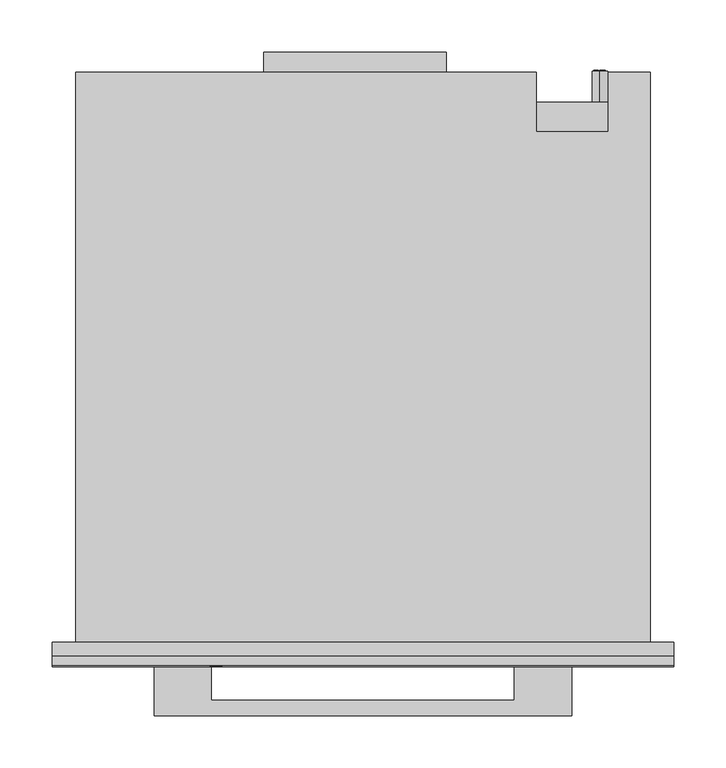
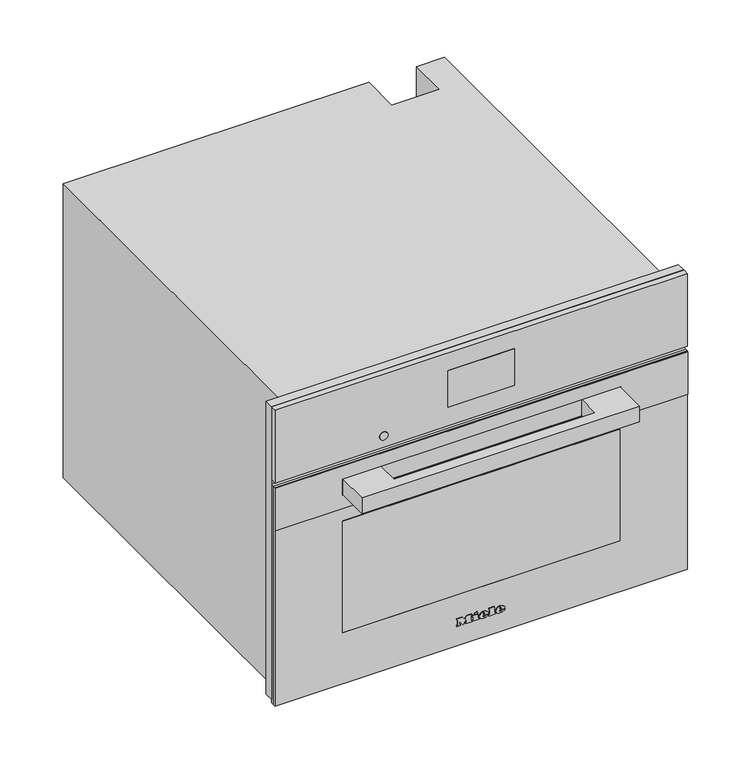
"""IFC4 building model written with IfcOpenShell, lengths in millimetres: proxy geometry, 11876660_USA_DGC7640_EDST-CLST : 23764042_USA_11876660_DGC7640_EDST-CLST."""

from ifc_helpers import new_model, si_unit, point, frame, frame_2d, origin, place, context, project, spatial, polyline, circle_curve, ellipse_curve, trimmed, segment, composite_curve, outline, extrude, faceted_brep, source, transform, mapped, element, save
from ifc_brep_helpers import plane_surface, cylinder_surface, revolved_surface, extruded_surface, advanced_brep


def specialty_equipment_7466eaa1(model_context):
    return source(origin(), model_context, "Body", "SolidModel", [
        extrude(outline(polyline([(455.0, 297.5), (455.0, -297.5), (9.0, -297.5), (9.0, 297.5), (455.0, 297.5)]), holes=[polyline([(344.0, -272.5), (344.0, 272.5), (27.0, 272.5), (27.0, -272.5), (344.0, -272.5)])]), frame((0.0, -13.0, 0.0), z_axis=(0.0, 1.0, 0.0), x_axis=(0.0, 0.0, 1.0)), (0.0, 0.0, 1.0), 13.0),
        extrude(outline(polyline([(-95.0, 565.0), (80.0, 565.0), (80.0, 546.0), (-95.0, 546.0), (-95.0, 565.0)])), frame((0.0, 0.0, 260.0), z_axis=(0.0, 0.0, 1.0), x_axis=(1.0, 0.0, 0.0)), (0.0, 0.0, 1.0), 1.0),
        advanced_brep(
        [(227.0, 547.0, 255.5), (227.0, 547.0, 240.5), (221.4098301, 547.0, 243.0), (225.5, 547.0, 243.0), (225.5, 547.0, 253.0), (224.4955303, 547.0, 253.0), (224.4955303, 547.0, 244.0), (221.0315043, 547.0, 244.0), (221.0315043, 547.0, 243.4582978), (232.0, 547.0, 243.0), (232.0, 547.0, 253.0), (227.0, 547.0, 253.0), (227.0, 547.0, 252.0), (231.0, 547.0, 252.0), (231.0, 547.0, 248.5), (228.0, 547.0, 248.5), (228.0, 547.0, 247.5), (231.0, 547.0, 247.5), (231.0, 547.0, 244.0), (227.0, 547.0, 244.0), (227.0, 547.0, 243.0), (227.0, 517.0, 240.5), (227.0, 517.0, 255.5), (232.0, 548.0, 253.0), (232.0, 548.0, 243.0), (227.0, 548.0, 243.0), (227.0, 548.0, 244.0), (231.0, 548.0, 244.0), (231.0, 548.0, 247.5), (228.0, 548.0, 247.5), (228.0, 548.0, 248.5), (231.0, 548.0, 248.5), (231.0, 548.0, 252.0), (227.0, 548.0, 252.0), (227.0, 548.0, 253.0), (225.5, 548.0, 243.0), (221.0315043, 548.0, 243.0), (221.0315043, 548.0, 244.0), (224.4955303, 548.0, 244.0), (224.4955303, 548.0, 253.0), (225.5, 548.0, 253.0), (221.0315043, 547.0, 243.0)],
        [
            (0, 1, circle_curve(frame((227.0, 547.0, 248.0), z_axis=(0.0, 1.0, 0.0), x_axis=(0.0, 0.0, 1.0)), 7.5)),
            (1, 2, circle_curve(frame((227.0, 547.0, 248.0), z_axis=(0.0, 1.0, 0.0), x_axis=(0.0, 0.0, 1.0)), 7.5)),
            (2, 3),
            (3, 4),
            (4, 5),
            (5, 6),
            (6, 7),
            (7, 8),
            (8, 0, circle_curve(frame((227.0, 547.0, 248.0), z_axis=(0.0, 1.0, 0.0), x_axis=(0.0, 0.0, 1.0)), 7.5)),
            (9, 10),
            (10, 11),
            (11, 12),
            (12, 13),
            (13, 14),
            (14, 15),
            (15, 16),
            (16, 17),
            (17, 18),
            (18, 19),
            (19, 20),
            (20, 9),
            (21, 22, circle_curve(frame((227.0, 517.0, 248.0), z_axis=(0.0, -1.0, 0.0), x_axis=(0.0, 0.0, 1.0)), 7.5)),
            (22, 21, circle_curve(frame((227.0, 517.0, 248.0), z_axis=(0.0, -1.0, 0.0), x_axis=(0.0, 0.0, 1.0)), 7.5)),
            (0, 22),
            (21, 1),
            (8, 2, circle_curve(frame((227.0, 547.0, 248.0), z_axis=(0.0, -1.0, 0.0), x_axis=(0.0, 0.0, 1.0)), 7.5)),
            (23, 24),
            (24, 25),
            (25, 26),
            (26, 27),
            (27, 28),
            (28, 29),
            (29, 30),
            (30, 31),
            (31, 32),
            (32, 33),
            (33, 34),
            (34, 23),
            (35, 36),
            (36, 37),
            (37, 38),
            (38, 39),
            (39, 40),
            (40, 35),
            (8, 41),
            (41, 2),
            (23, 10),
            (9, 24),
            (20, 25),
            (19, 26),
            (18, 27),
            (17, 28),
            (16, 29),
            (15, 30),
            (14, 31),
            (13, 32),
            (12, 33),
            (11, 34),
            (35, 3),
            (41, 36),
            (7, 37),
            (6, 38),
            (5, 39),
            (4, 40),
        ],
        [
            plane_surface(frame((227.0, 547.0, 255.5), z_axis=(0.0, 1.0, 0.0), x_axis=(1.0, 0.0, 0.0))),
            plane_surface(frame((227.0, 517.0, 255.5), z_axis=(0.0, -1.0, 0.0), x_axis=(-1.0, 0.0, 0.0))),
            cylinder_surface(frame((227.0, 547.0, 248.0), z_axis=(0.0, -1.0, 0.0), x_axis=(0.0, 0.0, 1.0)), 7.5),
            plane_surface(frame((232.0, 548.0, 253.0), z_axis=(0.0, 1.0, 0.0), x_axis=(0.0, 0.0, -1.0))),
            plane_surface(frame((232.0, 547.0, 253.0), z_axis=(0.0, -1.0, 0.0), x_axis=(0.0, 0.0, 1.0))),
            plane_surface(frame((232.0, 548.0, 253.0), z_axis=(1.0, 0.0, 0.0), x_axis=(0.0, -1.0, 0.0))),
            plane_surface(frame((232.0, 548.0, 243.0), z_axis=(0.0, 0.0, -1.0), x_axis=(0.0, -1.0, 0.0))),
            plane_surface(frame((227.0, 548.0, 243.0), z_axis=(-1.0, 0.0, 0.0), x_axis=(0.0, -1.0, 0.0))),
            plane_surface(frame((227.0, 548.0, 244.0), z_axis=(0.0, 0.0, 1.0), x_axis=(0.0, -1.0, 0.0))),
            plane_surface(frame((231.0, 548.0, 244.0), z_axis=(-1.0, 0.0, 0.0), x_axis=(0.0, -1.0, 0.0))),
            plane_surface(frame((231.0, 548.0, 247.5), z_axis=(0.0, 0.0, -1.0), x_axis=(0.0, -1.0, 0.0))),
            plane_surface(frame((228.0, 548.0, 247.5), z_axis=(-1.0, 0.0, 0.0), x_axis=(0.0, -1.0, 0.0))),
            plane_surface(frame((228.0, 548.0, 248.5), z_axis=(0.0, 0.0, 1.0), x_axis=(0.0, -1.0, 0.0))),
            plane_surface(frame((231.0, 548.0, 248.5), z_axis=(-1.0, 0.0, 0.0), x_axis=(0.0, -1.0, 0.0))),
            plane_surface(frame((231.0, 548.0, 252.0), z_axis=(0.0, 0.0, -1.0), x_axis=(0.0, -1.0, 0.0))),
            plane_surface(frame((227.0, 548.0, 252.0), z_axis=(-1.0, 0.0, 0.0), x_axis=(0.0, -1.0, 0.0))),
            plane_surface(frame((227.0, 548.0, 253.0), z_axis=(0.0, 0.0, 1.0), x_axis=(0.0, -1.0, 0.0))),
            plane_surface(frame((225.5, 548.0, 243.0), z_axis=(0.0, 0.0, -1.0), x_axis=(0.0, -1.0, 0.0))),
            plane_surface(frame((221.0315043, 548.0, 243.0), z_axis=(-1.0, 0.0, 0.0), x_axis=(0.0, -1.0, 0.0))),
            plane_surface(frame((221.0315043, 548.0, 244.0), z_axis=(0.0, 0.0, 1.0), x_axis=(0.0, -1.0, 0.0))),
            plane_surface(frame((224.4955303, 548.0, 244.0), z_axis=(-1.0, 0.0, 0.0), x_axis=(0.0, -1.0, 0.0))),
            plane_surface(frame((224.4955303, 548.0, 253.0), z_axis=(0.0, 0.0, 1.0), x_axis=(0.0, -1.0, 0.0))),
            plane_surface(frame((225.5, 548.0, 253.0), z_axis=(1.0, 0.0, 0.0), x_axis=(0.0, -1.0, 0.0))),
        ],
        [
            (0, [[1, 2, 3, 4, 5, 6, 7, 8, 9], [10, 11, 12, 13, 14, 15, 16, 17, 18, 19, 20, 21]]),
            (1, [[22, 23]]),
            (2, [[-1, 24, -22, 25]]),
            (2, [[-23, -24, -9, 26, -2, -25]]),
            (3, [[27, 28, 29, 30, 31, 32, 33, 34, 35, 36, 37, 38]]),
            (3, [[39, 40, 41, 42, 43, 44]]),
            (4, [[45, 46, -26]]),
            (5, [[-27, 47, -10, 48]]),
            (6, [[-28, -48, -21, 49]]),
            (7, [[-29, -49, -20, 50]]),
            (8, [[-30, -50, -19, 51]]),
            (9, [[-31, -51, -18, 52]]),
            (10, [[-32, -52, -17, 53]]),
            (11, [[-33, -53, -16, 54]]),
            (12, [[-34, -54, -15, 55]]),
            (13, [[-35, -55, -14, 56]]),
            (14, [[-36, -56, -13, 57]]),
            (15, [[-37, -57, -12, 58]]),
            (16, [[-38, -58, -11, -47]]),
            (17, [[-39, 59, -3, -46, 60]]),
            (18, [[-40, -60, -45, -8, 61]]),
            (19, [[-41, -61, -7, 62]]),
            (20, [[-42, -62, -6, 63]]),
            (21, [[-43, -63, -5, 64]]),
            (22, [[-44, -64, -4, -59]]),
        ],
    ),
        faceted_brep([(-275.0, 546.0, 0.0), (-275.0, 546.0, 448.0), (166.0, 546.0, 448.0), (166.0, 546.0, 0.0), (235.0, 546.0, 448.0), (275.0, 546.0, 448.0), (275.0, 546.0, 338.0), (235.0, 546.0, 338.0), (275.0, 0.0, 448.0), (-275.0, 0.0, 448.0), (-275.0, 0.0, 0.0), (275.0, 0.0, 0.0), (-272.5, 0.0, 344.0), (272.5, 0.0, 344.0), (272.5, 0.0, 27.0), (-272.5, 0.0, 27.0), (235.0, 489.0, 448.0), (166.0, 489.0, 448.0), (166.0, 517.0, 0.0), (275.0, 517.0, 0.0), (275.0, 517.0, 338.0), (272.5, 17.0, 344.0), (-272.5, 17.0, 344.0), (-272.5, 17.0, 27.0), (272.5, 17.0, 27.0), (231.0, 17.0, 307.0), (231.0, 17.0, 65.0), (-231.0, 17.0, 65.0), (-231.0, 17.0, 307.0), (231.0, 411.0, 307.0), (-231.0, 411.0, 307.0), (-231.0, 411.0, 65.0), (231.0, 411.0, 65.0), (235.0, 489.0, 337.0), (166.0, 489.0, 337.0), (166.0, 517.0, 337.0), (235.0, 517.0, 337.0), (235.0, 517.0, 338.0)], [[[0, 1, 2, 3]], [[4, 5, 6, 7]], [[8, 9, 10, 11], [12, 13, 14, 15]], [[9, 8, 5, 4, 16, 17, 2, 1]], [[1, 0, 10, 9]], [[11, 10, 0, 3, 18, 19]], [[8, 11, 19, 20, 6, 5]], [[21, 22, 23, 24], [25, 26, 27, 28]], [[22, 21, 13, 12]], [[23, 22, 12, 15]], [[24, 23, 15, 14]], [[21, 24, 14, 13]], [[29, 30, 31, 32]], [[29, 32, 26, 25]], [[32, 31, 27, 26]], [[31, 30, 28, 27]], [[30, 29, 25, 28]], [[16, 33, 34, 17]], [[17, 34, 35, 18, 3, 2]], [[34, 33, 36, 35]], [[33, 16, 4, 7, 37, 36]], [[37, 20, 19, 18, 35, 36]], [[20, 37, 7, 6]]]),
        advanced_brep(
        [(26.2998, -23.0, 36.7018), (26.2998, -23.0, 37.8532), (33.9264, -23.0, 37.8532), (20.6568, -23.0, 37.8532), (23.7918, -23.0, 34.0), (33.7326, -23.0, 36.7018), (30.2898, -23.0, 36.7018), (27.5766, -23.0, 35.425), (26.2998, -23.0, 39.3124), (26.2998, -23.0, 40.555), (28.2492, -23.0, 40.555), (28.2492, -23.0, 39.3124), (26.2998, -22.0, 36.7018), (27.5766, -22.0, 35.425), (30.2898, -22.0, 36.7018), (33.7326, -22.0, 36.7018), (23.7918, -22.0, 34.0), (20.6568, -22.0, 37.8532), (33.9264, -22.0, 37.8532), (26.2998, -22.0, 37.8532), (26.2998, -22.0, 39.3124), (28.2492, -22.0, 39.3124), (28.2492, -22.0, 40.555), (26.2998, -22.0, 40.555)],
        [
            (0, 1),
            (1, 2),
            (2, 3, ellipse_curve(frame((27.2916, -23.0, 37.8532), z_axis=(0.0, -1.0, 0.0), x_axis=(-1.0, 0.0, 0.0)), 6.6348, 5.4834)),
            (3, 4, circle_curve(frame((25.0686622, -23.0, 38.2408), z_axis=(0.0, -1.0, 0.0), x_axis=(0.0, 0.0, -1.0)), 4.4288556)),
            (4, 5, circle_curve(frame((27.1587808, -23.0, 41.2504), z_axis=(0.0, -1.0, 0.0), x_axis=(0.0, 0.0, -1.0)), 7.9940516)),
            (5, 6),
            (6, 7, circle_curve(frame((28.1338588, -23.0, 37.762), z_axis=(0.0, 1.0, 0.0), x_axis=(0.0, 0.0, -1.0)), 2.4025208)),
            (7, 0, circle_curve(frame((27.5766, -23.0, 36.7018), z_axis=(0.0, 1.0, 0.0), x_axis=(0.0, 0.0, -1.0)), 1.2768)),
            (8, 9),
            (9, 10, circle_curve(frame((27.2745, -23.0, 40.555), z_axis=(0.0, 1.0, 0.0), x_axis=(0.0, 0.0, -1.0)), 0.9747)),
            (10, 11),
            (11, 8),
            (12, 13, circle_curve(frame((27.5766, -22.0, 36.7018), z_axis=(0.0, -1.0, 0.0), x_axis=(0.0, 0.0, -1.0)), 1.2768)),
            (13, 14, circle_curve(frame((28.1338588, -22.0, 37.762), z_axis=(0.0, -1.0, 0.0), x_axis=(0.0, 0.0, -1.0)), 2.4025208)),
            (14, 15),
            (15, 16, circle_curve(frame((27.1587808, -22.0, 41.2504), z_axis=(0.0, 1.0, 0.0), x_axis=(0.0, 0.0, -1.0)), 7.9940516)),
            (16, 17, circle_curve(frame((25.0686622, -22.0, 38.2408), z_axis=(0.0, 1.0, 0.0), x_axis=(0.0, 0.0, -1.0)), 4.4288556)),
            (17, 18, ellipse_curve(frame((27.2916, -22.0, 37.8532), z_axis=(0.0, 1.0, 0.0), x_axis=(-1.0, 0.0, 0.0)), 6.6348, 5.4834)),
            (18, 19),
            (19, 12),
            (20, 21),
            (21, 22),
            (22, 23, circle_curve(frame((27.2745, -22.0, 40.555), z_axis=(0.0, -1.0, 0.0), x_axis=(0.0, 0.0, -1.0)), 0.9747)),
            (23, 20),
            (0, 12),
            (19, 1),
            (18, 2),
            (5, 15),
            (14, 6),
            (17, 3),
            (13, 7),
            (16, 4),
            (8, 20),
            (23, 9),
            (22, 10),
            (21, 11),
        ],
        [
            plane_surface(frame((26.2998, -23.0, 37.8532), z_axis=(0.0, -1.0, 0.0), x_axis=(0.0, 0.0, 1.0))),
            plane_surface(frame((26.2998, -22.0, 37.8532), z_axis=(0.0, 1.0, 0.0), x_axis=(0.0, 0.0, -1.0))),
            plane_surface(frame((26.2998, -23.0, 36.7018), z_axis=(1.0, 0.0, 0.0), x_axis=(0.0, 1.0, 0.0))),
            plane_surface(frame((26.2998, -23.0, 37.8532), z_axis=(0.0, 0.0, -1.0), x_axis=(0.0, 1.0, 0.0))),
            plane_surface(frame((33.7326, -23.0, 36.7018), z_axis=(0.0, 0.0, 1.0), x_axis=(0.0, 1.0, 0.0))),
            extruded_surface(trimmed(ellipse_curve(frame((27.2916, -21.0, 37.8532), z_axis=(0.0, -1.0, 0.0), x_axis=(-1.0, 0.0, 0.0)), 6.6348, 5.4834), [point((33.9264, -21.0, 37.8532))], [point((20.6568, -21.0, 37.8532))], True, "CARTESIAN"), (0.0, -1.0, 0.0), 1.0),
            revolved_surface(polyline([(28.1338588, -22.0, 35.3594792), (28.1338588, -23.0, 35.3594792)]), (28.1338588, -22.0, 37.762), (0.0, 1.0, 0.0)),
            revolved_surface(polyline([(27.5766, -22.0, 35.425), (27.5766, -23.0, 35.425)]), (27.5766, -22.0, 36.7018), (0.0, 1.0, 0.0)),
            cylinder_surface(frame((25.0686622, -22.0, 38.2408), z_axis=(0.0, -1.0, 0.0), x_axis=(0.0, 0.0, -1.0)), 4.4288556),
            cylinder_surface(frame((27.1587808, -22.0, 41.2504), z_axis=(0.0, -1.0, 0.0), x_axis=(0.0, 0.0, -1.0)), 7.9940516),
            plane_surface(frame((26.2998, -23.0, 39.3124), z_axis=(1.0, 0.0, 0.0), x_axis=(0.0, 1.0, 0.0))),
            revolved_surface(polyline([(27.2745, -22.0, 39.5803), (27.2745, -23.0, 39.5803)]), (27.2745, -22.0, 40.555), (0.0, 1.0, 0.0)),
            plane_surface(frame((28.2492, -23.0, 40.555), z_axis=(-1.0, 0.0, 0.0), x_axis=(0.0, 1.0, 0.0))),
            plane_surface(frame((28.2492, -23.0, 39.3124), z_axis=(0.0, 0.0, 1.0), x_axis=(0.0, 1.0, 0.0))),
        ],
        [
            (0, [[1, 2, 3, 4, 5, 6, 7, 8], [9, 10, 11, 12]]),
            (1, [[13, 14, 15, 16, 17, 18, 19, 20], [21, 22, 23, 24]]),
            (2, [[-1, 25, -20, 26]]),
            (3, [[-2, -26, -19, 27]]),
            (4, [[-6, 28, -15, 29]]),
            (5, [[-3, -27, -18, 30]]),
            (6, [[-7, -29, -14, 31]]),
            (7, [[-8, -31, -13, -25]]),
            (8, [[-4, -30, -17, 32]]),
            (9, [[-5, -32, -16, -28]]),
            (10, [[-9, 33, -24, 34]]),
            (11, [[-10, -34, -23, 35]]),
            (12, [[-11, -35, -22, 36]]),
            (13, [[-12, -36, -21, -33]]),
        ],
    ),
        advanced_brep(
        [(2.508, -23.0, 36.7018), (2.508, -23.0, 37.8532), (10.1346, -23.0, 37.8532), (-3.135, -23.0, 37.8532), (0.0, -23.0, 34.0), (9.9408, -23.0, 36.7018), (6.498, -23.0, 36.7018), (3.7848, -23.0, 35.425), (2.508, -23.0, 39.3124), (2.508, -23.0, 40.555), (4.4574, -23.0, 40.555), (4.4574, -23.0, 39.3124), (2.508, -22.0, 36.7018), (3.7848, -22.0, 35.425), (6.498, -22.0, 36.7018), (9.9408, -22.0, 36.7018), (0.0, -22.0, 34.0), (-3.135, -22.0, 37.8532), (10.1346, -22.0, 37.8532), (2.508, -22.0, 37.8532), (2.508, -22.0, 39.3124), (4.4574, -22.0, 39.3124), (4.4574, -22.0, 40.555), (2.508, -22.0, 40.555)],
        [
            (0, 1),
            (1, 2),
            (2, 3, ellipse_curve(frame((3.4998, -23.0, 37.8532), z_axis=(0.0, -1.0, 0.0), x_axis=(-1.0, 0.0, 0.0)), 6.6348, 5.4834)),
            (3, 4, circle_curve(frame((1.2768622, -23.0, 38.2408), z_axis=(0.0, -1.0, 0.0), x_axis=(0.0, 0.0, -1.0)), 4.4288556)),
            (4, 5, circle_curve(frame((3.3669808, -23.0, 41.2504), z_axis=(0.0, -1.0, 0.0), x_axis=(0.0, 0.0, -1.0)), 7.9940516)),
            (5, 6),
            (6, 7, circle_curve(frame((4.3420588, -23.0, 37.762), z_axis=(0.0, 1.0, 0.0), x_axis=(0.0, 0.0, -1.0)), 2.4025208)),
            (7, 0, circle_curve(frame((3.7848, -23.0, 36.7018), z_axis=(0.0, 1.0, 0.0), x_axis=(0.0, 0.0, -1.0)), 1.2768)),
            (8, 9),
            (9, 10, circle_curve(frame((3.4827, -23.0, 40.555), z_axis=(0.0, 1.0, 0.0), x_axis=(0.0, 0.0, -1.0)), 0.9747)),
            (10, 11),
            (11, 8),
            (12, 13, circle_curve(frame((3.7848, -22.0, 36.7018), z_axis=(0.0, -1.0, 0.0), x_axis=(0.0, 0.0, -1.0)), 1.2768)),
            (13, 14, circle_curve(frame((4.3420588, -22.0, 37.762), z_axis=(0.0, -1.0, 0.0), x_axis=(0.0, 0.0, -1.0)), 2.4025208)),
            (14, 15),
            (15, 16, circle_curve(frame((3.3669808, -22.0, 41.2504), z_axis=(0.0, 1.0, 0.0), x_axis=(0.0, 0.0, -1.0)), 7.9940516)),
            (16, 17, circle_curve(frame((1.2768622, -22.0, 38.2408), z_axis=(0.0, 1.0, 0.0), x_axis=(0.0, 0.0, -1.0)), 4.4288556)),
            (17, 18, ellipse_curve(frame((3.4998, -22.0, 37.8532), z_axis=(0.0, 1.0, 0.0), x_axis=(-1.0, 0.0, 0.0)), 6.6348, 5.4834)),
            (18, 19),
            (19, 12),
            (20, 21),
            (21, 22),
            (22, 23, circle_curve(frame((3.4827, -22.0, 40.555), z_axis=(0.0, -1.0, 0.0), x_axis=(0.0, 0.0, -1.0)), 0.9747)),
            (23, 20),
            (0, 12),
            (19, 1),
            (18, 2),
            (5, 15),
            (14, 6),
            (17, 3),
            (13, 7),
            (16, 4),
            (8, 20),
            (23, 9),
            (22, 10),
            (21, 11),
        ],
        [
            plane_surface(frame((2.508, -23.0, 37.8532), z_axis=(0.0, -1.0, 0.0), x_axis=(0.0, 0.0, 1.0))),
            plane_surface(frame((2.508, -22.0, 37.8532), z_axis=(0.0, 1.0, 0.0), x_axis=(0.0, 0.0, -1.0))),
            plane_surface(frame((2.508, -23.0, 36.7018), z_axis=(1.0, 0.0, 0.0), x_axis=(0.0, 1.0, 0.0))),
            plane_surface(frame((2.508, -23.0, 37.8532), z_axis=(0.0, 0.0, -1.0), x_axis=(0.0, 1.0, 0.0))),
            plane_surface(frame((9.9408, -23.0, 36.7018), z_axis=(0.0, 0.0, 1.0), x_axis=(0.0, 1.0, 0.0))),
            extruded_surface(trimmed(ellipse_curve(frame((3.4998, -21.0, 37.8532), z_axis=(0.0, -1.0, 0.0), x_axis=(-1.0, 0.0, 0.0)), 6.6348, 5.4834), [point((10.1346, -21.0, 37.8532))], [point((-3.135, -21.0, 37.8532))], True, "CARTESIAN"), (0.0, -1.0, 0.0), 1.0),
            revolved_surface(polyline([(4.3420588, -22.0, 35.3594792), (4.3420588, -23.0, 35.3594792)]), (4.3420588, -22.0, 37.762), (0.0, 1.0, 0.0)),
            revolved_surface(polyline([(3.7848, -22.0, 35.425), (3.7848, -23.0, 35.425)]), (3.7848, -22.0, 36.7018), (0.0, 1.0, 0.0)),
            cylinder_surface(frame((1.2768622, -22.0, 38.2408), z_axis=(0.0, -1.0, 0.0), x_axis=(0.0, 0.0, -1.0)), 4.4288556),
            cylinder_surface(frame((3.3669808, -22.0, 41.2504), z_axis=(0.0, -1.0, 0.0), x_axis=(0.0, 0.0, -1.0)), 7.9940516),
            plane_surface(frame((2.508, -23.0, 39.3124), z_axis=(1.0, 0.0, 0.0), x_axis=(0.0, 1.0, 0.0))),
            revolved_surface(polyline([(3.4827, -22.0, 39.5803), (3.4827, -23.0, 39.5803)]), (3.4827, -22.0, 40.555), (0.0, 1.0, 0.0)),
            plane_surface(frame((4.4574, -23.0, 40.555), z_axis=(-1.0, 0.0, 0.0), x_axis=(0.0, 1.0, 0.0))),
            plane_surface(frame((4.4574, -23.0, 39.3124), z_axis=(0.0, 0.0, 1.0), x_axis=(0.0, 1.0, 0.0))),
        ],
        [
            (0, [[1, 2, 3, 4, 5, 6, 7, 8], [9, 10, 11, 12]]),
            (1, [[13, 14, 15, 16, 17, 18, 19, 20], [21, 22, 23, 24]]),
            (2, [[-1, 25, -20, 26]]),
            (3, [[-2, -26, -19, 27]]),
            (4, [[-6, 28, -15, 29]]),
            (5, [[-3, -27, -18, 30]]),
            (6, [[-7, -29, -14, 31]]),
            (7, [[-8, -31, -13, -25]]),
            (8, [[-4, -30, -17, 32]]),
            (9, [[-5, -32, -16, -28]]),
            (10, [[-9, 33, -24, 34]]),
            (11, [[-10, -34, -23, 35]]),
            (12, [[-11, -35, -22, 36]]),
            (13, [[-12, -36, -21, -33]]),
        ],
    ),
        extrude(outline(polyline([(44.7274, -9.9522), (42.8806, -9.0858), (44.6818, -5.2212), (46.5286, -6.0762), (44.7274, -9.9522)])), frame((0.0, -23.0, 0.0), z_axis=(0.0, 1.0, 0.0), x_axis=(0.0, 0.0, 1.0)), (0.0, 0.0, 1.0), 1.0),
        extrude(outline(polyline([(42.6298, -12.768), (40.5892, -12.768), (40.5892, -11.4114), (35.9152, -11.4114), (35.9152, -12.768), (34.0, -12.768), (34.0, -3.7734), (35.9152, -3.7734), (35.9152, -5.0958), (42.6298, -5.0958), (42.6298, -12.768)])), frame((0.0, -23.0, 0.0), z_axis=(0.0, 1.0, 0.0), x_axis=(0.0, 0.0, 1.0)), (0.0, 0.0, 1.0), 1.0),
        extrude(outline(polyline([(43.5418, 10.773), (43.5418, 12.141), (35.9152, 12.141), (35.9152, 10.773), (34.0, 10.773), (34.0, 20.0184), (35.9152, 20.0184), (35.9152, 18.6162), (45.4, 18.6162), (45.4, 10.773), (43.5418, 10.773)])), frame((0.0, -23.0, 0.0), z_axis=(0.0, 1.0, 0.0), x_axis=(0.0, 0.0, 1.0)), (0.0, 0.0, 1.0), 1.0),
        extrude(outline(polyline([(43.5418, -35.4882), (43.5418, -34.1088), (35.9152, -34.1088), (35.9152, -35.4882), (34.0, -35.4882), (34.0, -30.4722), (35.9152, -30.4722), (35.9152, -31.8402), (40.7429247, -31.8402), (34.0, -26.7444), (40.9402223, -21.6258), (35.9152, -21.6258), (35.9152, -23.028), (34.0, -23.028), (34.0, -13.9308), (35.9152, -13.9308), (35.9152, -15.3786), (43.5418, -15.3786), (43.5418, -13.9308), (45.4, -13.9308), (45.4, -20.8734), (41.125, -24.2022), (45.4, -27.5424), (45.4, -35.4882), (43.5418, -35.4882)])), frame((0.0, -23.0, 0.0), z_axis=(0.0, 1.0, 0.0), x_axis=(0.0, 0.0, 1.0)), (0.0, 0.0, 1.0), 1.0),
        extrude(outline(composite_curve([segment(trimmed(circle_curve(frame_2d((361.0, -140.5745637)), 6.0), [point((361.0, -146.5745637))], [point((361.0, -134.5745637))], False, "CARTESIAN"), True, "CONTINUOUS"), segment(trimmed(circle_curve(frame_2d((361.0, -140.5745637)), 6.0), [point((361.0, -134.5745637))], [point((361.0, -146.5745637))], False, "CARTESIAN"), True, "CONTINUOUS")], self_intersect=False)), frame((0.0, -22.5, 0.0), z_axis=(0.0, 1.0, 0.0), x_axis=(0.0, 0.0, 1.0)), (0.0, 0.0, 1.0), 1.0),
        extrude(outline(polyline([(-48.0, -21.0), (48.0, -21.0), (48.0, -22.0), (-48.0, -22.0), (-48.0, -21.0)])), frame((0.0, 0.0, 372.0), z_axis=(0.0, 0.0, 1.0), x_axis=(1.0, 0.0, 0.0)), (0.0, 0.0, 1.0), 56.0),
        faceted_brep([(297.5, -22.0, 455.0), (-297.5, -22.0, 455.0), (-297.5, -22.0, 344.0), (297.5, -22.0, 344.0), (48.0, -22.0, 428.0), (48.0, -22.0, 372.0), (-48.0, -22.0, 372.0), (-48.0, -22.0, 428.0), (297.5, -13.0, 455.0), (297.5, -13.0, 344.0), (-297.5, -13.0, 344.0), (-297.5, -13.0, 455.0), (48.0, -21.0, 428.0), (-48.0, -21.0, 428.0), (-48.0, -21.0, 372.0), (48.0, -21.0, 372.0)], [[[0, 1, 2, 3], [4, 5, 6, 7]], [[8, 9, 10, 11]], [[1, 0, 8, 11]], [[2, 1, 11, 10]], [[3, 2, 10, 9]], [[0, 3, 9, 8]], [[12, 13, 14, 15]], [[12, 15, 5, 4]], [[15, 14, 6, 5]], [[14, 13, 7, 6]], [[13, 12, 4, 7]]]),
        extrude(outline(polyline([(200.0, -22.0), (-200.0, -22.0), (-200.0, -18.0), (200.0, -18.0), (200.0, -22.0)])), frame((0.0, 0.0, 82.0), z_axis=(0.0, 0.0, 1.0), x_axis=(1.0, 0.0, 0.0)), (0.0, 0.0, 1.0), 170.0),
        extrude(outline(polyline([(337.0, 297.5), (337.0, -297.5), (4.0, -297.5), (4.0, 297.5), (337.0, 297.5)]), holes=[polyline([(252.0, -200.0), (252.0, 200.0), (82.0, 200.0), (82.0, -200.0), (252.0, -200.0)])]), frame((0.0, -22.0, 0.0), z_axis=(0.0, 1.0, 0.0), x_axis=(0.0, 0.0, 1.0)), (0.0, 0.0, 1.0), 4.0),
        extrude(outline(polyline([(337.0, 297.5), (337.0, -297.5), (272.0, -297.5), (272.0, 297.5), (337.0, 297.5)]), holes=[polyline([(317.0, -200.5), (317.0, 200.5), (292.0, 200.5), (292.0, -200.5), (317.0, -200.5)])]), frame((0.0, -23.3, 0.0), z_axis=(0.0, 1.0, 0.0), x_axis=(0.0, 0.0, 1.0)), (0.0, 0.0, 1.0), 1.3),
        extrude(outline(polyline([(-200.0, -70.3), (-200.0, -22.0), (-145.0, -22.0), (-145.0, -55.3), (145.0, -55.3), (145.0, -22.0), (200.0, -22.0), (200.0, -70.3), (-200.0, -70.3)])), frame((0.0, 0.0, 292.5), z_axis=(0.0, 0.0, 1.0), x_axis=(1.0, 0.0, 0.0)), (0.0, 0.0, 1.0), 24.0),
        extrude(outline(polyline([(297.5, -18.0), (-297.5, -18.0), (-297.5, -13.0), (297.5, -13.0), (297.5, -18.0)])), frame((0.0, 0.0, 4.0), z_axis=(0.0, 0.0, 1.0), x_axis=(1.0, 0.0, 0.0)), (0.0, 0.0, 1.0), 333.0),
    ])


if __name__ == "__main__":
    model = new_model("IFC4")
    model_context = context("Model", 3, world=origin())
    ifc_project = project(units=[si_unit("LENGTHUNIT", "METRE", prefix="MILLI")], contexts=[model_context])
    site = spatial("IfcSite", under=ifc_project)
    building = spatial("IfcBuilding", under=site)
    placement = place(None, origin())
    specialty_equipment_shape = specialty_equipment_7466eaa1(model_context)
    element("IfcBuildingElementProxy", 1, Name="11876660_USA_DGC7640_EDST-CLST : 23764042_USA_11876660_DGC7640_EDST-CLST", ObjectType="11876660_USA_DGC7640_EDST-CLST : 23764042_USA_11876660_DGC7640_EDST-CLST", at=placement, inside=building, context=model_context, shape_type="MappedRepresentation", body=[
        mapped(specialty_equipment_shape, transform((0.0, 0.0, 0.0), x_axis=(1.0, 0.0, 0.0), y_axis=(0.0, 1.0, 0.0), z_axis=(0.0, 0.0, 1.0))),
    ])
    save(model, "model.ifc")
